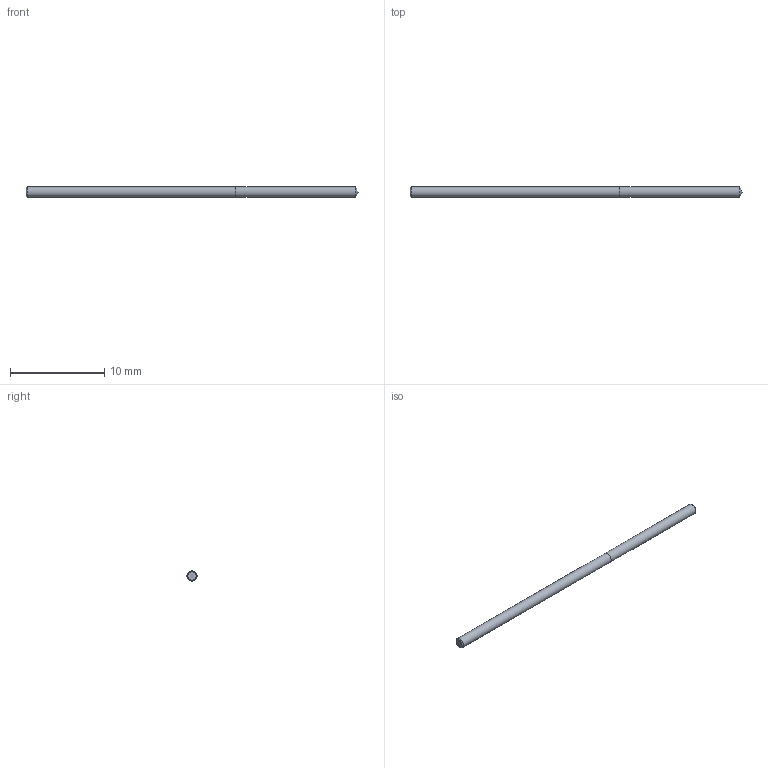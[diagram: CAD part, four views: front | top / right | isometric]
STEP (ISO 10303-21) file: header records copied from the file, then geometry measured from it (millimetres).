
FILE_DESCRIPTION (( 'STEP AP214' ), '1' );
FILE_NAME ('03-2399.STEP', '2022-06-03T07:15:02', ( 'USER' ), ( '' ), 'SwSTEP 2.0', 'SolidWorks 2018', '' );
FILE_SCHEMA (( 'AUTOMOTIVE_DESIGN' ));
Length unit declared in the file: inch
Products named in the file (1): 03-2399
Bounding box: 35.15 x 1.09 x 1.09 mm (x, y, z)
Volume: 32.8 mm3; surface area: 123.4 mm2
Topology: 2 solids, 2 shells, 7 faces, 11 edges, 7 vertices
Faces by surface type: plane 3, cylinder 2, cone 2
Full cylindrical faces by diameter (mm): 1.092 x2
Entity records: 214 total; most frequent: DIRECTION 26, CARTESIAN_POINT 18, AXIS2_PLACEMENT_3D 13, ORIENTED_EDGE 10, EDGE_LOOP 10, FACE_OUTER_BOUND 9, ADVANCED_FACE 7, LENGTH_MEASURE_WITH_UNIT 7
